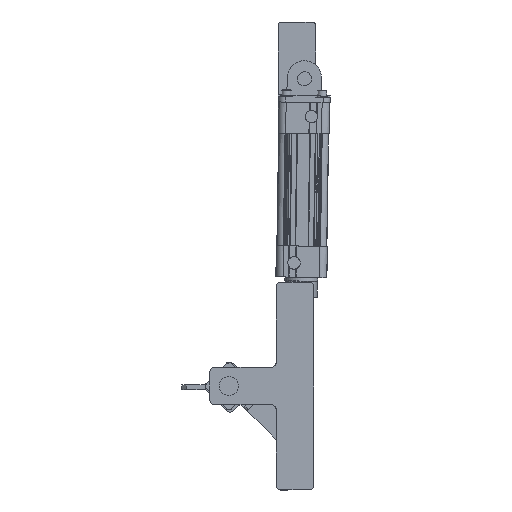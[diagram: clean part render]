
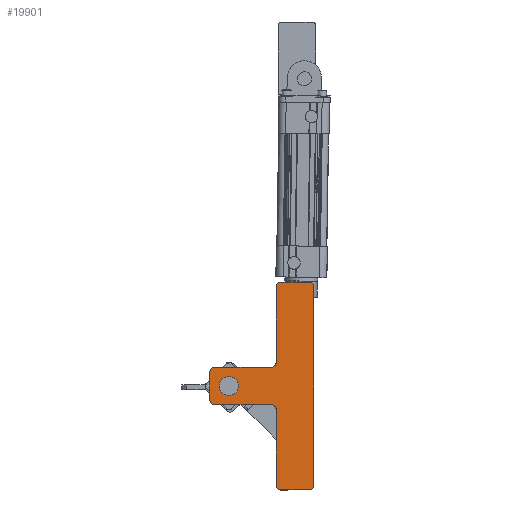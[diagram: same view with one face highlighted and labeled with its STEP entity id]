
A CAD part, left-side view. The second image highlights one B-rep face of the part: STEP entity #19901.
In plain terms, the highlighted planar face has unit normal (-1, 0, 0).
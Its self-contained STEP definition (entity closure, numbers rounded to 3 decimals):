
#19743=CARTESIAN_POINT('',(-535.,90.,-10.));
#19744=VERTEX_POINT('',#19743);
#19745=CARTESIAN_POINT('',(-535.,90.,0.));
#19746=DIRECTION('',(1.0,0.0,0.0));
#19747=DIRECTION('',(0.0,0.0,1.0));
#19748=AXIS2_PLACEMENT_3D('',#19745,#19746,#19747);
#19749=CIRCLE('',#19748,10.0);
#19750=EDGE_CURVE('',#19744,#19744,#19749,.T.);
#19755=CARTESIAN_POINT('',(-535.,35.909,0.));
#19756=DIRECTION('',(1.0,0.0,0.0));
#19757=DIRECTION('',(0.0,0.0,-1.0));
#19758=AXIS2_PLACEMENT_3D('',#19755,#19756,#19757);
#19759=PLANE('',#19758);
#19760=CARTESIAN_POINT('',(-535.,0.,-105.));
#19761=VERTEX_POINT('',#19760);
#19762=CARTESIAN_POINT('',(-535.,5.,-110.));
#19763=VERTEX_POINT('',#19762);
#19764=CARTESIAN_POINT('',(-535.,5.,-105.));
#19765=DIRECTION('',(1.0,0.,0.));
#19766=DIRECTION('',(0.,-0.707,-0.707));
#19767=AXIS2_PLACEMENT_3D('',#19764,#19765,#19766);
#19768=CIRCLE('',#19767,5.);
#19769=EDGE_CURVE('',#19761,#19763,#19768,.T.);
#19770=ORIENTED_EDGE('',*,*,#19769,.F.);
#19771=CARTESIAN_POINT('',(-535.,0.,105.));
#19772=VERTEX_POINT('',#19771);
#19773=CARTESIAN_POINT('',(-535.,0.,105.));
#19774=DIRECTION('',(0.0,0.0,-1.0));
#19775=VECTOR('',#19774,210.0);
#19776=LINE('',#19773,#19775);
#19777=EDGE_CURVE('',#19772,#19761,#19776,.T.);
#19778=ORIENTED_EDGE('',*,*,#19777,.F.);
#19779=CARTESIAN_POINT('',(-535.,5.,110.));
#19780=VERTEX_POINT('',#19779);
#19781=CARTESIAN_POINT('',(-535.,5.,105.));
#19782=DIRECTION('',(1.0,0.,0.));
#19783=DIRECTION('',(0.,-0.707,0.707));
#19784=AXIS2_PLACEMENT_3D('',#19781,#19782,#19783);
#19785=CIRCLE('',#19784,5.);
#19786=EDGE_CURVE('',#19780,#19772,#19785,.T.);
#19787=ORIENTED_EDGE('',*,*,#19786,.F.);
#19788=CARTESIAN_POINT('',(-535.,35.,110.));
#19789=VERTEX_POINT('',#19788);
#19790=CARTESIAN_POINT('',(-535.,35.,110.));
#19791=DIRECTION('',(0.0,-1.0,0.0));
#19792=VECTOR('',#19791,30.0);
#19793=LINE('',#19790,#19792);
#19794=EDGE_CURVE('',#19789,#19780,#19793,.T.);
#19795=ORIENTED_EDGE('',*,*,#19794,.F.);
#19796=CARTESIAN_POINT('',(-535.,40.,105.));
#19797=VERTEX_POINT('',#19796);
#19798=CARTESIAN_POINT('',(-535.,35.,105.));
#19799=DIRECTION('',(1.0,0.,0.));
#19800=DIRECTION('',(0.,0.707,0.707));
#19801=AXIS2_PLACEMENT_3D('',#19798,#19799,#19800);
#19802=CIRCLE('',#19801,5.);
#19803=EDGE_CURVE('',#19797,#19789,#19802,.T.);
#19804=ORIENTED_EDGE('',*,*,#19803,.F.);
#19805=CARTESIAN_POINT('',(-535.,40.,25.));
#19806=VERTEX_POINT('',#19805);
#19807=CARTESIAN_POINT('',(-535.,40.,25.));
#19808=DIRECTION('',(0.0,0.0,1.0));
#19809=VECTOR('',#19808,80.);
#19810=LINE('',#19807,#19809);
#19811=EDGE_CURVE('',#19806,#19797,#19810,.T.);
#19812=ORIENTED_EDGE('',*,*,#19811,.F.);
#19813=CARTESIAN_POINT('',(-535.,45.,20.));
#19814=VERTEX_POINT('',#19813);
#19815=CARTESIAN_POINT('',(-535.,45.,25.));
#19816=DIRECTION('',(-1.0,0.,0.));
#19817=DIRECTION('',(0.,-0.707,-0.707));
#19818=AXIS2_PLACEMENT_3D('',#19815,#19816,#19817);
#19819=CIRCLE('',#19818,5.0);
#19820=EDGE_CURVE('',#19814,#19806,#19819,.T.);
#19821=ORIENTED_EDGE('',*,*,#19820,.F.);
#19822=CARTESIAN_POINT('',(-535.,105.,20.));
#19823=VERTEX_POINT('',#19822);
#19824=CARTESIAN_POINT('',(-535.,105.,20.));
#19825=DIRECTION('',(0.0,-1.0,0.0));
#19826=VECTOR('',#19825,60.0);
#19827=LINE('',#19824,#19826);
#19828=EDGE_CURVE('',#19823,#19814,#19827,.T.);
#19829=ORIENTED_EDGE('',*,*,#19828,.F.);
#19830=CARTESIAN_POINT('',(-535.,110.,15.));
#19831=VERTEX_POINT('',#19830);
#19832=CARTESIAN_POINT('',(-535.,105.,15.));
#19833=DIRECTION('',(1.0,0.,0.));
#19834=DIRECTION('',(0.,0.707,0.707));
#19835=AXIS2_PLACEMENT_3D('',#19832,#19833,#19834);
#19836=CIRCLE('',#19835,5.);
#19837=EDGE_CURVE('',#19831,#19823,#19836,.T.);
#19838=ORIENTED_EDGE('',*,*,#19837,.F.);
#19839=CARTESIAN_POINT('',(-535.,110.,-15.));
#19840=VERTEX_POINT('',#19839);
#19841=CARTESIAN_POINT('',(-535.,110.,-15.));
#19842=DIRECTION('',(0.0,0.0,1.0));
#19843=VECTOR('',#19842,30.0);
#19844=LINE('',#19841,#19843);
#19845=EDGE_CURVE('',#19840,#19831,#19844,.T.);
#19846=ORIENTED_EDGE('',*,*,#19845,.F.);
#19847=CARTESIAN_POINT('',(-535.,105.,-20.));
#19848=VERTEX_POINT('',#19847);
#19849=CARTESIAN_POINT('',(-535.,105.,-15.));
#19850=DIRECTION('',(1.0,0.,0.));
#19851=DIRECTION('',(0.,0.707,-0.707));
#19852=AXIS2_PLACEMENT_3D('',#19849,#19850,#19851);
#19853=CIRCLE('',#19852,5.);
#19854=EDGE_CURVE('',#19848,#19840,#19853,.T.);
#19855=ORIENTED_EDGE('',*,*,#19854,.F.);
#19856=CARTESIAN_POINT('',(-535.,45.,-20.));
#19857=VERTEX_POINT('',#19856);
#19858=CARTESIAN_POINT('',(-535.,45.,-20.));
#19859=DIRECTION('',(0.0,1.0,0.0));
#19860=VECTOR('',#19859,60.);
#19861=LINE('',#19858,#19860);
#19862=EDGE_CURVE('',#19857,#19848,#19861,.T.);
#19863=ORIENTED_EDGE('',*,*,#19862,.F.);
#19864=CARTESIAN_POINT('',(-535.,40.,-25.));
#19865=VERTEX_POINT('',#19864);
#19866=CARTESIAN_POINT('',(-535.,45.,-25.));
#19867=DIRECTION('',(-1.0,0.,0.));
#19868=DIRECTION('',(0.,-0.707,0.707));
#19869=AXIS2_PLACEMENT_3D('',#19866,#19867,#19868);
#19870=CIRCLE('',#19869,5.);
#19871=EDGE_CURVE('',#19865,#19857,#19870,.T.);
#19872=ORIENTED_EDGE('',*,*,#19871,.F.);
#19873=CARTESIAN_POINT('',(-535.,40.,-105.));
#19874=VERTEX_POINT('',#19873);
#19875=CARTESIAN_POINT('',(-535.,40.,-105.));
#19876=DIRECTION('',(0.0,0.0,1.0));
#19877=VECTOR('',#19876,80.0);
#19878=LINE('',#19875,#19877);
#19879=EDGE_CURVE('',#19874,#19865,#19878,.T.);
#19880=ORIENTED_EDGE('',*,*,#19879,.F.);
#19881=CARTESIAN_POINT('',(-535.,35.,-110.));
#19882=VERTEX_POINT('',#19881);
#19883=CARTESIAN_POINT('',(-535.,35.,-105.));
#19884=DIRECTION('',(1.0,0.,0.));
#19885=DIRECTION('',(0.,0.707,-0.707));
#19886=AXIS2_PLACEMENT_3D('',#19883,#19884,#19885);
#19887=CIRCLE('',#19886,5.);
#19888=EDGE_CURVE('',#19882,#19874,#19887,.T.);
#19889=ORIENTED_EDGE('',*,*,#19888,.F.);
#19890=CARTESIAN_POINT('',(-535.,5.,-110.));
#19891=DIRECTION('',(0.0,1.0,0.0));
#19892=VECTOR('',#19891,30.);
#19893=LINE('',#19890,#19892);
#19894=EDGE_CURVE('',#19763,#19882,#19893,.T.);
#19895=ORIENTED_EDGE('',*,*,#19894,.F.);
#19896=EDGE_LOOP('',(#19770,#19778,#19787,#19795,#19804,#19812,#19821,#19829,#19838,#19846,#19855,#19863,#19872,#19880,#19889,#19895));
#19897=FACE_OUTER_BOUND('',#19896,.T.);
#19898=ORIENTED_EDGE('',*,*,#19750,.T.);
#19899=EDGE_LOOP('',(#19898));
#19900=FACE_BOUND('',#19899,.T.);
#19901=ADVANCED_FACE('',(#19897,#19900),#19759,.F.);
